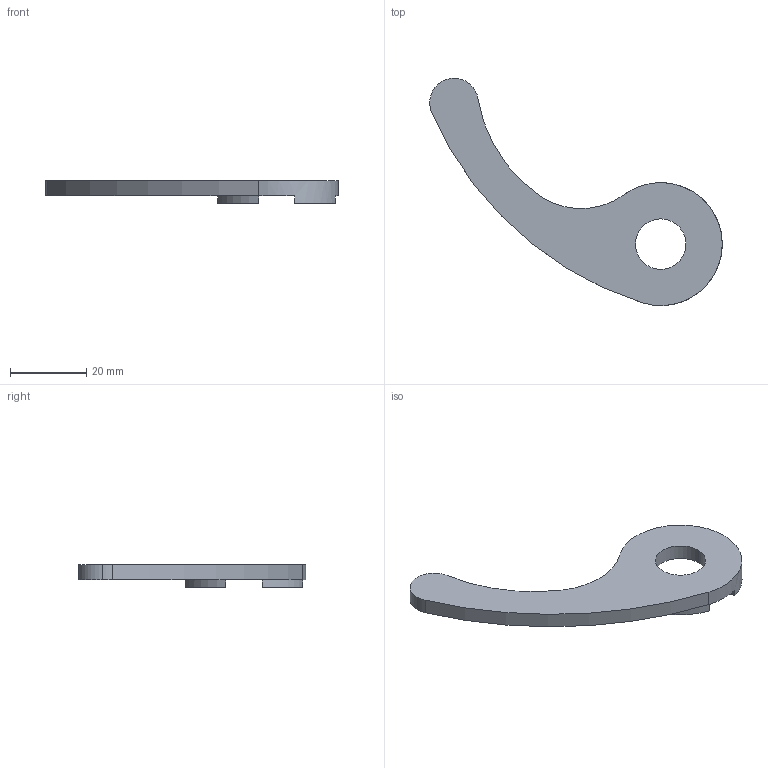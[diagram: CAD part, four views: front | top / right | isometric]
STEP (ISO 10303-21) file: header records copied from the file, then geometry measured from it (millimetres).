
FILE_DESCRIPTION (( 'STEP AP203' ), '1' );
FILE_NAME ('lid ARM.STEP', '2018-03-01T16:58:34', ( '' ), ( '' ), 'SwSTEP 2.0', 'SolidWorks 2015', '' );
FILE_SCHEMA (( 'CONFIG_CONTROL_DESIGN' ));
Length unit declared in the file: inch
Products named in the file (1): lid ARM
Bounding box: 76.54 x 59.48 x 6 mm (x, y, z)
Volume: 6156.9 mm3; surface area: 4221.8 mm2
Topology: 1 solids, 1 shells, 27 faces, 75 edges, 50 vertices
Faces by surface type: plane 14, cylinder 13
Entity records: 966 total; most frequent: DIRECTION 165, CARTESIAN_POINT 153, ORIENTED_EDGE 150, EDGE_CURVE 75, AXIS2_PLACEMENT_3D 62, VERTEX_POINT 50, VECTOR 41, LINE 41
